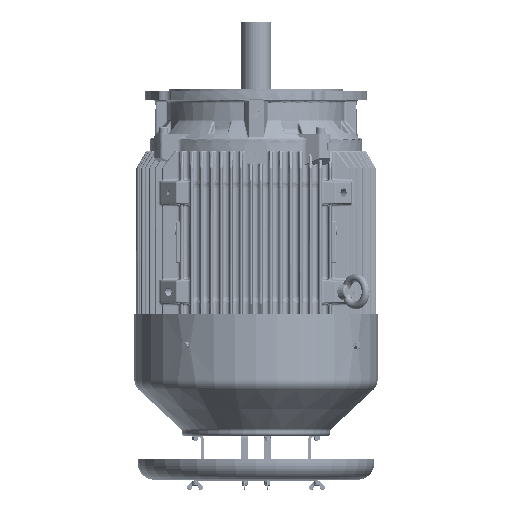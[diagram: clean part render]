
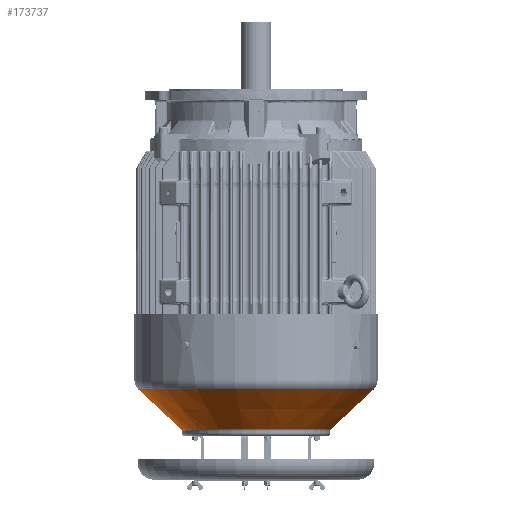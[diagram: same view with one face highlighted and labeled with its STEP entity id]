
A CAD part, front view. The second image highlights one B-rep face of the part: STEP entity #173737.
In plain terms, the highlighted conical face has half-angle 47 degrees and reference radius 152.544 mm.
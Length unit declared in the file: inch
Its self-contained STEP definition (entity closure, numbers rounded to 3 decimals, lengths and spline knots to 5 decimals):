
#1456 = CIRCLE ( 'NONE', #108247, 6.00567 ) ;
#3128 = CIRCLE ( 'NONE', #124388, 9.35236 ) ;
#10161 = EDGE_CURVE ( 'NONE', #128498, #378834, #3128, .T. ) ;
#18611 = DIRECTION ( 'NONE',  ( 0., 0., 1. ) ) ;
#23139 = CARTESIAN_POINT ( 'NONE',  ( 0., 0., -11.70919 ) ) ;
#64821 = ORIENTED_EDGE ( 'NONE', *, *, #385704, .F. ) ;
#75320 = ORIENTED_EDGE ( 'NONE', *, *, #85708, .T. ) ;
#85708 = EDGE_CURVE ( 'NONE', #131582, #378834, #144700, .T. ) ;
#108247 = AXIS2_PLACEMENT_3D ( 'NONE', #172499, #362979, #238622 ) ;
#113091 = EDGE_CURVE ( 'NONE', #125021, #131582, #1456, .T. ) ;
#124388 = AXIS2_PLACEMENT_3D ( 'NONE', #23139, #18611, #409502 ) ;
#124431 = EDGE_LOOP ( 'NONE', ( #64821, #325393, #75320, #449472 ) ) ;
#125021 = VERTEX_POINT ( 'NONE', #294357 ) ;
#128498 = VERTEX_POINT ( 'NONE', #416319 ) ;
#131582 = VERTEX_POINT ( 'NONE', #195881 ) ;
#144700 = LINE ( 'NONE', #437289, #327701 ) ;
#162625 = DIRECTION ( 'NONE',  ( 1., 0., 0. ) ) ;
#167191 = CARTESIAN_POINT ( 'NONE',  ( 0., 0., -14.83003 ) ) ;
#172499 = CARTESIAN_POINT ( 'NONE',  ( 0., 0., -14.83003 ) ) ;
#173737 = ADVANCED_FACE ( 'NONE', ( #341067 ), #435530, .T. ) ;
#195881 = CARTESIAN_POINT ( 'NONE',  ( 6.00567, 0., -14.83003 ) ) ;
#218986 = CARTESIAN_POINT ( 'NONE',  ( 9.35236, 0., -11.70919 ) ) ;
#238622 = DIRECTION ( 'NONE',  ( 1., 0., 0. ) ) ;
#283104 = CARTESIAN_POINT ( 'NONE',  ( -6.00567, 0., -14.83003 ) ) ;
#287673 = DIRECTION ( 'NONE',  ( -0.731, 0., 0.682 ) ) ;
#294357 = CARTESIAN_POINT ( 'NONE',  ( -6.00567, 0., -14.83003 ) ) ;
#299157 = DIRECTION ( 'NONE',  ( 0.731, 0., 0.682 ) ) ;
#325393 = ORIENTED_EDGE ( 'NONE', *, *, #113091, .T. ) ;
#327701 = VECTOR ( 'NONE', #299157, 39.37008 ) ;
#341067 = FACE_OUTER_BOUND ( 'NONE', #124431, .T. ) ;
#362979 = DIRECTION ( 'NONE',  ( 0., 0., 1. ) ) ;
#366604 = AXIS2_PLACEMENT_3D ( 'NONE', #167191, #376568, #162625 ) ;
#376568 = DIRECTION ( 'NONE',  ( 0., 0., 1. ) ) ;
#378834 = VERTEX_POINT ( 'NONE', #218986 ) ;
#385704 = EDGE_CURVE ( 'NONE', #125021, #128498, #393144, .T. ) ;
#393144 = LINE ( 'NONE', #283104, #437631 ) ;
#409502 = DIRECTION ( 'NONE',  ( 1., 0., 0. ) ) ;
#416319 = CARTESIAN_POINT ( 'NONE',  ( -9.35236, 0., -11.70919 ) ) ;
#435530 = CONICAL_SURFACE ( 'NONE', #366604, 6.00567, 0.82 ) ;
#437289 = CARTESIAN_POINT ( 'NONE',  ( 6.00567, 0., -14.83003 ) ) ;
#437631 = VECTOR ( 'NONE', #287673, 39.37008 ) ;
#449472 = ORIENTED_EDGE ( 'NONE', *, *, #10161, .F. ) ;
